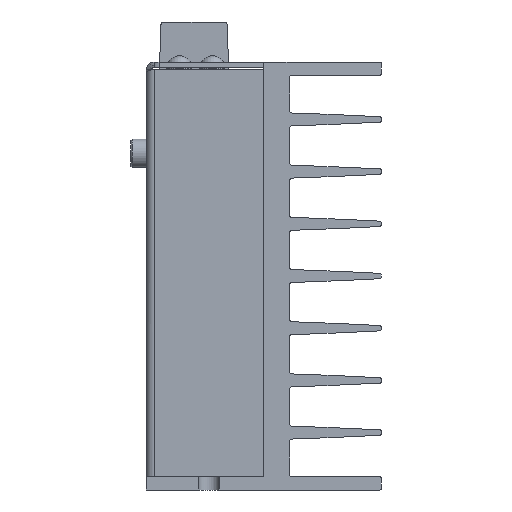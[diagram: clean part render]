
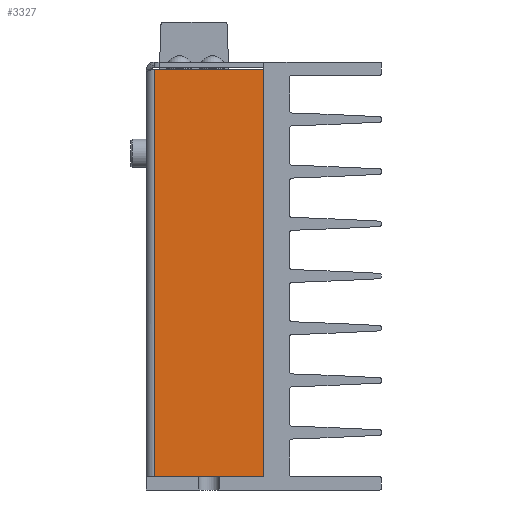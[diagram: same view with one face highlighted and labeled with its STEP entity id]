
A CAD part, left-side view. The second image highlights one B-rep face of the part: STEP entity #3327.
In plain terms, the highlighted planar face has unit normal (-1, 0, 0).
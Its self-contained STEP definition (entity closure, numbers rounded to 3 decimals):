
#3272=CARTESIAN_POINT('',(-60.,21.,-2.75));
#3273=VERTEX_POINT('',#3272);
#3280=CARTESIAN_POINT('',(-60.,0.,-2.75));
#3281=VERTEX_POINT('',#3280);
#3282=CARTESIAN_POINT('',(-60.,21.,-2.75));
#3283=DIRECTION('',(0.,-1.,0.));
#3284=VECTOR('',#3283,21.);
#3285=LINE('',#3282,#3284);
#3286=EDGE_CURVE('',#3273,#3281,#3285,.T.);
#3297=CARTESIAN_POINT('',(-60.,22.5,-41.));
#3298=DIRECTION('',(0.,1.,0.));
#3299=DIRECTION('',(-1.,0.,0.));
#3300=AXIS2_PLACEMENT_3D('',#3297,#3299,#3298);
#3301=PLANE('',#3300);
#3302=ORIENTED_EDGE('',*,*,#3286,.F.);
#3303=CARTESIAN_POINT('',(-60.,21.,-80.75));
#3304=VERTEX_POINT('',#3303);
#3305=CARTESIAN_POINT('',(-60.,21.,-2.75));
#3306=DIRECTION('',(0.,0.,-1.));
#3307=VECTOR('',#3306,78.);
#3308=LINE('',#3305,#3307);
#3309=EDGE_CURVE('',#3273,#3304,#3308,.T.);
#3310=ORIENTED_EDGE('E3157',*,*,#3309,.T.);
#3311=CARTESIAN_POINT('',(-60.,0.,-80.75));
#3312=VERTEX_POINT('',#3311);
#3313=CARTESIAN_POINT('',(-60.,21.,-80.75));
#3314=DIRECTION('',(0.,-1.,0.));
#3315=VECTOR('',#3314,21.);
#3316=LINE('',#3313,#3315);
#3317=EDGE_CURVE('',#3304,#3312,#3316,.T.);
#3318=ORIENTED_EDGE('E3158',*,*,#3317,.T.);
#3319=CARTESIAN_POINT('',(-60.,0.,-80.75));
#3320=DIRECTION('',(0.,0.,1.));
#3321=VECTOR('',#3320,78.);
#3322=LINE('',#3319,#3321);
#3323=EDGE_CURVE('',#3312,#3281,#3322,.T.);
#3324=ORIENTED_EDGE('E3159',*,*,#3323,.T.);
#3325=EDGE_LOOP('',(#3302,#3310,#3318,#3324));
#3326=FACE_OUTER_BOUND('',#3325,.T.);
#3327=ADVANCED_FACE('F92',(#3326),#3301,.T.);
